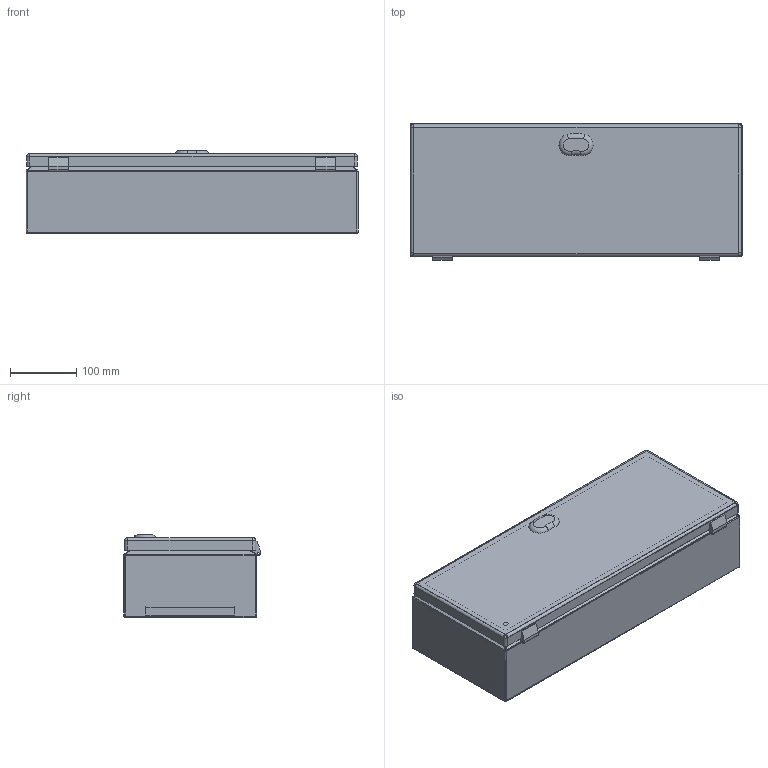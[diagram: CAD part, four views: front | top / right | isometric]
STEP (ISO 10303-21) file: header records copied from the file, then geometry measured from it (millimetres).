
FILE_DESCRIPTION (( 'STEP AP203' ), '1' );
FILE_NAME ('EG020512.P.STEP', '2023-09-01T14:58:03', ( '' ), ( '' ), 'SwSTEP 2.0', 'SolidWorks 2022', '' );
FILE_SCHEMA (( 'CONFIG_CONTROL_DESIGN' ));
Length unit declared in the file: millimetre
Products named in the file (4): EG020512.P; AR_EGRAN.P_involucro_0200x0500x120; AR_ECOR_chiusura_std_STD; AR_EGRAN.P_porta_0200x0500
Assembly tree (3 placements, depth 2):
  EG020512.P
    AR_EGRAN.P_involucro_0200x0500x120
    AR_EGRAN.P_porta_0200x0500
    AR_ECOR_chiusura_std_STD
Bounding box: 500 x 205.6 x 125 mm (x, y, z)
Volume: 543592.1 mm3; surface area: 807869.4 mm2
Topology: 3 solids, 3 shells, 265 faces, 661 edges, 392 vertices
Faces by surface type: cylinder 127, plane 94, torus 20, sphere 16, bspline 8
Full cylindrical faces by diameter (mm): 2.5 x2, 4.2 x14, 4.5 x2, 5.2 x4, 5.5 x1, 6 x1, 8 x1, 10.2 x4
Entity records: 8334 total; most frequent: CARTESIAN_POINT 1752, DIRECTION 1350, ORIENTED_EDGE 1206, EDGE_CURVE 603, AXIS2_PLACEMENT_3D 517, VERTEX_POINT 379, EDGE_LOOP 356, LINE 316
